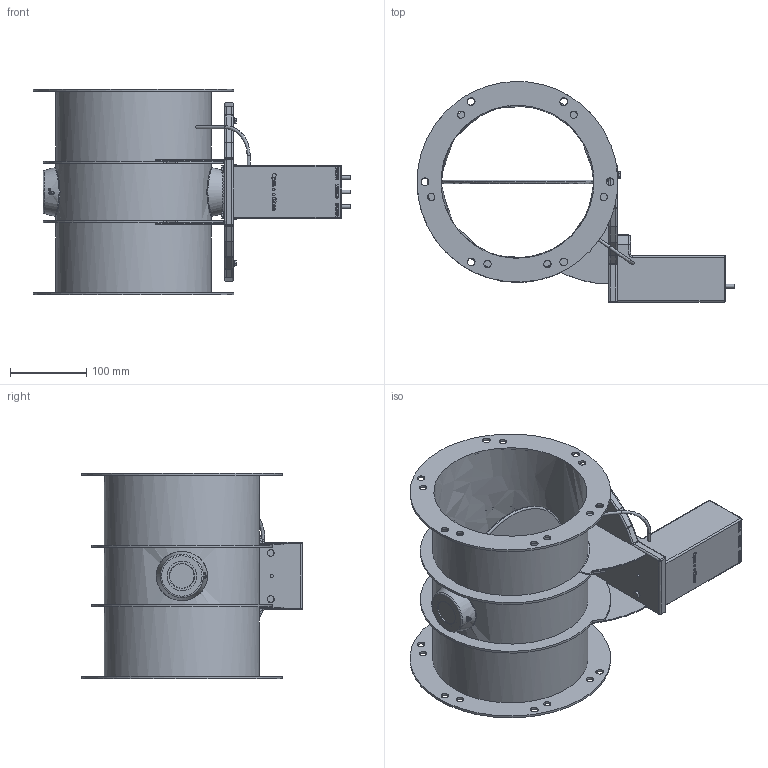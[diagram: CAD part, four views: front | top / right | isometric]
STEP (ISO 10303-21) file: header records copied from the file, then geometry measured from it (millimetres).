
FILE_DESCRIPTION( ('This file contains a STEP AP42 implementation' ,'as created by ZW3D STEP Interface translator.') ,'2;1' );
FILE_NAME( '3D Model-08_2M0 Butterfly Body with drive.stp' ,'201125. 924 4', (''), ('ZWCAD Software Co.'), 'Version 1.0', 'ZW3D to STEP translator', '' );
FILE_SCHEMA(('AUTOMOTIVE_DESIGN'));
Length unit declared in the file: millimetre
Products named in the file (1): 0
Bounding box: 417.11 x 290.08 x 270 mm (x, y, z)
Volume: 1672628.9 mm3; surface area: 709201.8 mm2
Topology: 7 solids, 9 shells, 808 faces, 2026 edges, 1297 vertices
Faces by surface type: bspline 808
Entity records: 32562 total; most frequent: CARTESIAN_POINT 19538, ORIENTED_EDGE 3956, EDGE_CURVE 1978, B_SPLINE_CURVE_WITH_KNOTS 1632, VERTEX_POINT 1267, EDGE_LOOP 947, FACE_OUTER_BOUND 808, ADVANCED_FACE 808
